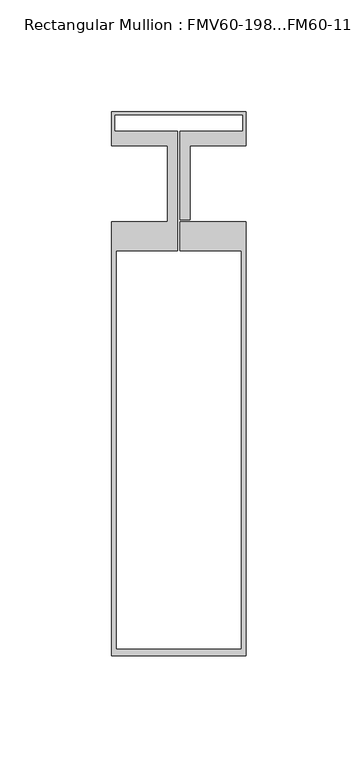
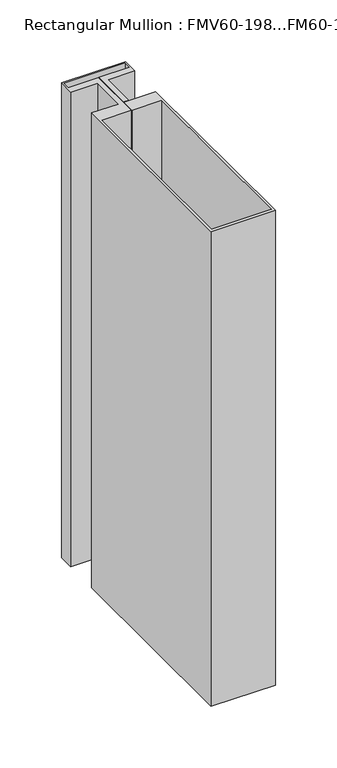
"""IFC4 building model written with IfcOpenShell, lengths in millimetres: member geometry, Rectangular Mullion : FMV60-198...FM60-11."""

import ifcopenshell
import ifcopenshell.guid

model = None  # the IFC model being written
_history = None  # IfcOwnerHistory: only IFC2X3 demands one
_inside = {}  # id of a spatial element -> (the spatial element, [elements in it])
_under = {}  # id of a project, library or spatial element -> (it, [spatial elements below it])
_declared = {}  # id of a project -> (the project, [libraries it declares])
_typed = {}  # id of a type object -> (the type object, [elements of that type])
_made_of = {}  # id of a material, layer set ... -> (it, [elements and type objects made of it])


def new_model(schema):
    """Start an empty IFC model of exactly this schema.

    Asked for "IFC4X3", IfcOpenShell would pick the latest addendum, in which some entities
    have other attributes; the version numbers below select the first issue.
    IFC2X3 requires an IfcOwnerHistory on every rooted entity: one is made here for all.
    """
    global model, _history
    if schema == "IFC4X3":
        model = ifcopenshell.file(schema_version=(4, 3, 0, 0))
    else:
        model = ifcopenshell.file(schema=schema)
    _inside.clear()
    _under.clear()
    _declared.clear()
    _typed.clear()
    _made_of.clear()
    _history = None
    if model.schema == "IFC2X3":
        org = make("IfcOrganization", Name="unknown")
        user = make(
            "IfcPersonAndOrganization",
            ThePerson=make("IfcPerson", FamilyName="unknown"),
            TheOrganization=org,
        )
        app = make(
            "IfcApplication",
            ApplicationDeveloper=org,
            Version="unknown",
            ApplicationFullName="unknown",
            ApplicationIdentifier="unknown",
        )
        _history = make(
            "IfcOwnerHistory",
            OwningUser=user,
            OwningApplication=app,
            ChangeAction="ADDED",
            CreationDate=0,
        )
    return model


def make(cls, **values):
    """One entity of the class cls with the attributes given. An attribute that is None is left unset."""
    return model.create_entity(
        cls, **{name: value for name, value in values.items() if value is not None}
    )


def rooted(cls, **values):
    """An entity with a GlobalId (a new one), such as an element, a storey or a relation."""
    return make(cls, GlobalId=ifcopenshell.guid.new(), OwnerHistory=_history, **values)


def si_unit(unit_type, name, prefix=None):
    """IfcSIUnit, for example si_unit("LENGTHUNIT", "METRE", prefix="MILLI")."""
    return make("IfcSIUnit", UnitType=unit_type, Prefix=prefix, Name=name)


def assignment(units):
    """IfcUnitAssignment: the units of a project."""
    return None if units is None else make("IfcUnitAssignment", Units=units)


def point(xyz):
    """IfcCartesianPoint."""
    return None if xyz is None else make("IfcCartesianPoint", Coordinates=xyz)


def direction(xyz):
    """IfcDirection."""
    return None if xyz is None else make("IfcDirection", DirectionRatios=xyz)


def frame(location, z_axis=None, x_axis=None):
    """IfcAxis2Placement3D, a coordinate frame: its origin and axes. An axis left out is left unset."""
    return make(
        "IfcAxis2Placement3D",
        Location=point(location),
        Axis=direction(z_axis),
        RefDirection=direction(x_axis),
    )


def origin():
    """The frame at (0, 0, 0) with its axes left unset."""
    return frame((0.0, 0.0, 0.0))


def place(relative_to, where):
    """IfcLocalPlacement: puts the frame where relative to a parent placement (None: the world)."""
    return make(
        "IfcLocalPlacement", PlacementRelTo=relative_to, RelativePlacement=where
    )


def context(
    kind, dimensions, precision=None, world=None, true_north=None, identifier=None
):
    """IfcGeometricRepresentationContext, for example the 3D "Model" context."""
    return make(
        "IfcGeometricRepresentationContext",
        ContextIdentifier=identifier,
        ContextType=kind,
        CoordinateSpaceDimension=dimensions,
        Precision=precision,
        WorldCoordinateSystem=world,
        TrueNorth=true_north,
    )


def project(units=None, contexts=None):
    """IfcProject with its units and contexts."""
    return rooted(
        "IfcProject",
        Name="project",
        RepresentationContexts=contexts,
        UnitsInContext=assignment(units),
    )


def spatial(cls, under=None, at=None, **own):
    """A site, building, storey or space (cls), placed at a placement, below another one or the project."""
    s = rooted(cls, ObjectPlacement=at, **own)
    if under is not None:
        _under.setdefault(under.id(), (under, []))[1].append(s)
    return s


def polyline(points):
    """IfcPolyline through the points."""
    return make("IfcPolyline", Points=[point(p) for p in points])


def outline(outer, holes=None, kind="AREA"):
    """IfcArbitraryClosedProfileDef: a profile drawn as a closed curve; with holes, ...WithVoids."""
    if holes is None:
        return make("IfcArbitraryClosedProfileDef", ProfileType=kind, OuterCurve=outer)
    return make(
        "IfcArbitraryProfileDefWithVoids",
        ProfileType=kind,
        OuterCurve=outer,
        InnerCurves=holes,
    )


def extrude(swept, where, along, depth):
    """IfcExtrudedAreaSolid: the profile swept, set in the frame where, extruded along a direction by depth."""
    return make(
        "IfcExtrudedAreaSolid",
        SweptArea=swept,
        Position=where,
        ExtrudedDirection=direction(along),
        Depth=depth,
    )


def shape(context_of_items, identifier, shape_type, items):
    """IfcShapeRepresentation: the items that make up one representation, for example the "Body"."""
    return make(
        "IfcShapeRepresentation",
        ContextOfItems=context_of_items,
        RepresentationIdentifier=identifier,
        RepresentationType=shape_type,
        Items=items,
    )


def source(mapping_origin, context_of_items, identifier, shape_type, items):
    """IfcRepresentationMap: a shape defined once, which mapped items show again and again."""
    return make(
        "IfcRepresentationMap",
        MappingOrigin=mapping_origin,
        MappedRepresentation=shape(context_of_items, identifier, shape_type, items),
    )


def transform(
    local_origin,
    x_axis=None,
    y_axis=None,
    z_axis=None,
    scale=None,
    scale2=None,
    scale3=None,
    uniform=True,
):
    """IfcCartesianTransformationOperator3D, or its non-uniform kind. x_axis, y_axis, z_axis: its Axis1, 2, 3."""
    if uniform:
        return make(
            "IfcCartesianTransformationOperator3D",
            Axis1=direction(x_axis),
            Axis2=direction(y_axis),
            LocalOrigin=point(local_origin),
            Scale=scale,
            Axis3=direction(z_axis),
        )
    return make(
        "IfcCartesianTransformationOperator3DnonUniform",
        Axis1=direction(x_axis),
        Axis2=direction(y_axis),
        LocalOrigin=point(local_origin),
        Scale=scale,
        Axis3=direction(z_axis),
        Scale2=scale2,
        Scale3=scale3,
    )


def mapped(mapping_source, mapping_target):
    """IfcMappedItem: shows the shape of a source again, moved by a transform."""
    return make(
        "IfcMappedItem", MappingSource=mapping_source, MappingTarget=mapping_target
    )


def made_of(thing, what):
    """Note that an element or type object is made of a material, layer set ...; save() writes the relation."""
    if what is not None:
        _made_of.setdefault(what.id(), (what, []))[1].append(thing)
    return thing


def element(
    cls,
    number,
    at=None,
    inside=None,
    cuts=None,
    type_object=None,
    material=None,
    context=None,
    identifier="Body",
    shape_type=None,
    held_by="IfcProductDefinitionShape",
    body=None,
    shapes=None,
    **own,
):
    """One element of the class cls, such as IfcWall. Its Tag is "e" and its number.

    at: its placement. inside: the storey or other place that contains it. cuts: it is an
    opening in that element (IfcRelVoidsElement). A single representation is given by context,
    identifier, shape_type and body (its items); several are given by shapes. held_by: the class
    of the entity that holds the representations. save() writes the other relations.
    """
    e = rooted(cls, Tag="e%d" % number, ObjectPlacement=at, **own)
    if body is not None:
        shapes = [shape(context, identifier, shape_type, body)]
    if shapes is not None:
        e.Representation = make(held_by, Representations=shapes)
    if inside is not None:
        _inside.setdefault(inside.id(), (inside, []))[1].append(e)
    if cuts is not None:
        rooted(
            "IfcRelVoidsElement", RelatingBuildingElement=cuts, RelatedOpeningElement=e
        )
    if type_object is not None:
        _typed.setdefault(type_object.id(), (type_object, []))[1].append(e)
    return made_of(e, material)


def aggregate(whole, parts):
    """IfcRelAggregates: a whole, such as a stair, and the parts it consists of."""
    return rooted("IfcRelAggregates", RelatingObject=whole, RelatedObjects=parts)


def save(model, path):
    """Write the relations noted so far, then the file.

    IfcRelAggregates (storeys below a building ...), IfcRelContainedInSpatialStructure (elements
    in a storey), IfcRelDefinesByType, IfcRelAssociatesMaterial and IfcRelDeclares: one each for
    every whole, place, type object, material and project.
    """
    for whole, parts in _under.values():
        aggregate(whole, parts)
    for where, things in _inside.values():
        rooted(
            "IfcRelContainedInSpatialStructure",
            RelatedElements=things,
            RelatingStructure=where,
        )
    for kind, things in _typed.values():
        rooted("IfcRelDefinesByType", RelatedObjects=things, RelatingType=kind)
    for what, things in _made_of.values():
        rooted("IfcRelAssociatesMaterial", RelatedObjects=things, RelatingMaterial=what)
    for by, libraries in _declared.values():
        rooted("IfcRelDeclares", RelatingContext=by, RelatedDefinitions=libraries)
    model.write(path)


def rectangular_mullion_fmv60_198_fm60_11_619c33c3(model_context):
    return source(origin(), model_context, "Body", "SweptSolid", [
        extrude(outline(polyline([(30.0, -16.9999336), (30.0, -210.9989914), (-30.0, -210.9989914), (-30.0, -16.9999336), (-4.9995097, -16.9999336), (-4.9995097, 17.0000664), (-30.0, 17.0000664), (-30.0, 32.0039104), (30.0, 32.0039104), (30.0, 17.0000664), (5.0, 17.0000664), (5.0, -16.1999336), (0.5, -16.1999336), (0.5, 23.4439745), (28.7000412, 23.4439745), (28.7000412, 30.7039104), (-28.7000412, 30.7039104), (-28.7000412, 23.4439745), (-0.5, 23.4439745), (-0.5, -29.9945136), (-28.0, -29.9945136), (-28.0, -207.9989914), (28.0, -207.9989914), (28.0, -29.9945136), (0.5, -29.9945136), (0.5, -16.9999336), (30.0, -16.9999336)])), frame((0.0, 0.0, -470.0157699), z_axis=(0.0, 0.0, 1.0), x_axis=(1.0, 0.0, 0.0)), (0.0, 0.0, 1.0), 470.0157699),
    ])


if __name__ == "__main__":
    model = new_model("IFC4")
    model_context = context("Model", 3, world=origin())
    ifc_project = project(units=[si_unit("LENGTHUNIT", "METRE", prefix="MILLI")], contexts=[model_context])
    site = spatial("IfcSite", under=ifc_project)
    building = spatial("IfcBuilding", under=site)
    placement = place(None, origin())
    rectangular_mullion_fmv60_198_fm60_11_shape = rectangular_mullion_fmv60_198_fm60_11_619c33c3(model_context)
    element("IfcMember", 1, ObjectType="Rectangular Mullion : FMV60-198...FM60-11", at=placement, inside=building, context=model_context, shape_type="MappedRepresentation", body=[
        mapped(rectangular_mullion_fmv60_198_fm60_11_shape, transform((0.0, 0.0, 0.0), x_axis=(1.0, 0.0, 0.0), y_axis=(0.0, 1.0, 0.0), z_axis=(0.0, 0.0, 1.0))),
    ])
    save(model, "model.ifc")
